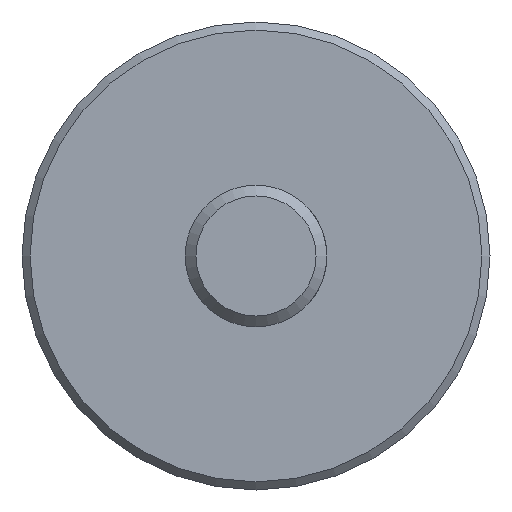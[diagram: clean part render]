
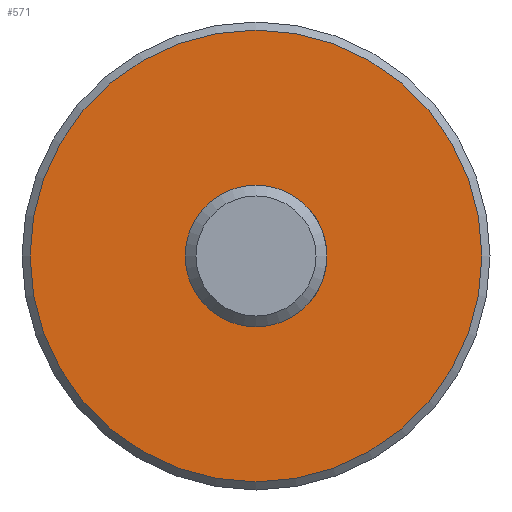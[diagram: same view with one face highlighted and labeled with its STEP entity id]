
A CAD part, front view. The second image highlights one B-rep face of the part: STEP entity #571.
In plain terms, the highlighted planar face has unit normal (0, -1, 0).
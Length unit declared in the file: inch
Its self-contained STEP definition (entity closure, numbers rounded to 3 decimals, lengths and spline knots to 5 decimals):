
#33 = PLANE ( 'NONE',  #64 ) ;
#38 = CIRCLE ( 'NONE', #429, 1.255 ) ;
#62 = CARTESIAN_POINT ( 'NONE',  ( 0., 3.28, 0. ) ) ;
#64 = AXIS2_PLACEMENT_3D ( 'NONE', #336, #471, #446 ) ;
#68 = ORIENTED_EDGE ( 'NONE', *, *, #207, .F. ) ;
#80 = DIRECTION ( 'NONE',  ( 0., 0., 1. ) ) ;
#171 = DIRECTION ( 'NONE',  ( 0., 1., 0. ) ) ;
#207 = EDGE_CURVE ( 'NONE', #439, #439, #38, .T. ) ;
#223 = CARTESIAN_POINT ( 'NONE',  ( 0., 3.28, 0.3937 ) ) ;
#228 = EDGE_LOOP ( 'NONE', ( #473 ) ) ;
#237 = DIRECTION ( 'NONE',  ( 0., 0., 1. ) ) ;
#254 = FACE_OUTER_BOUND ( 'NONE', #386, .T. ) ;
#288 = CIRCLE ( 'NONE', #310, 0.3937 ) ;
#310 = AXIS2_PLACEMENT_3D ( 'NONE', #468, #171, #80 ) ;
#336 = CARTESIAN_POINT ( 'NONE',  ( 0.3937, 3.28, 0. ) ) ;
#386 = EDGE_LOOP ( 'NONE', ( #68 ) ) ;
#405 = VERTEX_POINT ( 'NONE', #223 ) ;
#424 = FACE_BOUND ( 'NONE', #228, .T. ) ;
#429 = AXIS2_PLACEMENT_3D ( 'NONE', #62, #443, #237 ) ;
#439 = VERTEX_POINT ( 'NONE', #532 ) ;
#443 = DIRECTION ( 'NONE',  ( 0., 1., 0. ) ) ;
#446 = DIRECTION ( 'NONE',  ( 0., 0., 1. ) ) ;
#468 = CARTESIAN_POINT ( 'NONE',  ( 0., 3.28, 0. ) ) ;
#471 = DIRECTION ( 'NONE',  ( 0., 1., 0. ) ) ;
#473 = ORIENTED_EDGE ( 'NONE', *, *, #556, .T. ) ;
#532 = CARTESIAN_POINT ( 'NONE',  ( 0., 3.28, 1.255 ) ) ;
#556 = EDGE_CURVE ( 'NONE', #405, #405, #288, .T. ) ;
#571 = ADVANCED_FACE ( 'NONE', ( #254, #424 ), #33, .F. ) ;
